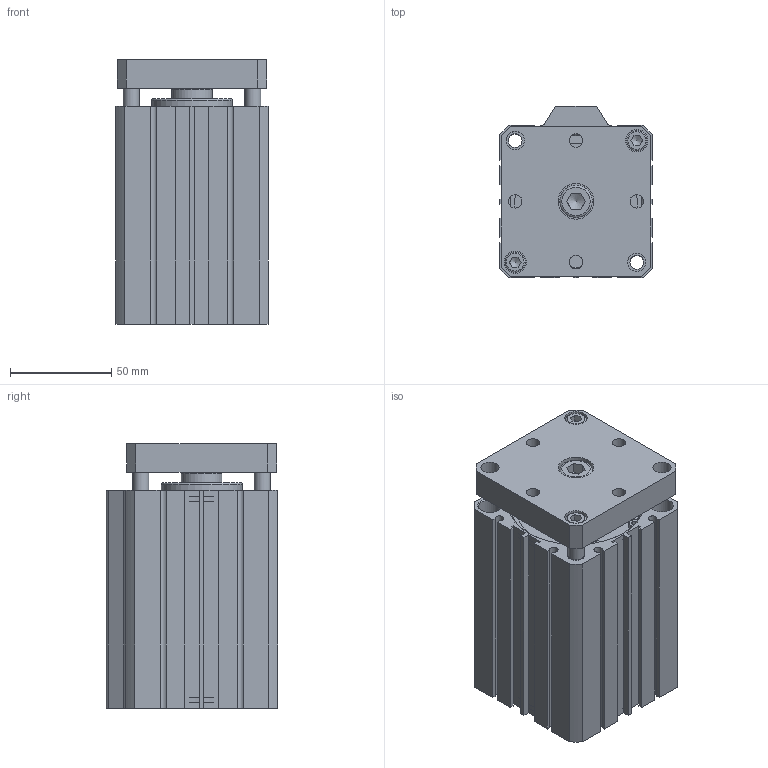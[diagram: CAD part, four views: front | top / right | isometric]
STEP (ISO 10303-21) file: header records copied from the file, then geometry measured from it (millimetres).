
FILE_DESCRIPTION((''),'2;1');
FILE_NAME('I:\3D電子目錄\氣缸\JTD\JTD\JTD63\JTD63x75.stp','2007-08-14T19:52:07',('Administrator'),(''),'Autodesk Inventor 11','Autodesk Inventor 11','');
FILE_SCHEMA(('AUTOMOTIVE_DESIGN { 1 0 10303 214 1 1 1 1 }'));
Length unit declared in the file: millimetre
Products named in the file (5): JTD63; R 形環 65; ISO 4762 M10 x 16; ISO 4762 M6 x 20
Assembly tree (6 placements, depth 2):
  JTD63
    JTD63
    R 形環 65  x2
    ISO 4762 M10 x 16
    ISO 4762 M6 x 20  x2
Bounding box: 75 x 84.5 x 130.5 mm (x, y, z)
Volume: 631019.5 mm3; surface area: 100354.4 mm2
Topology: 7 solids, 7 shells, 232 faces, 563 edges, 372 vertices
Faces by surface type: plane 136, cylinder 61, bspline 16, cone 14, torus 5
Full cylindrical faces by diameter (mm): 2.7 x4, 3 x2, 6 x2, 6.8 x2, 8 x2, 8.5 x2, 9 x2, 10 x3, 11 x4, 16 x1, 20 x1, 40 x1, 47 x1, 65 x4, 68 x2
Entity records: 6069 total; most frequent: CARTESIAN_POINT 1279, DIRECTION 964, ORIENTED_EDGE 866, EDGE_CURVE 433, AXIS2_PLACEMENT_3D 342, VERTEX_POINT 321, EDGE_LOOP 316, VECTOR 280
